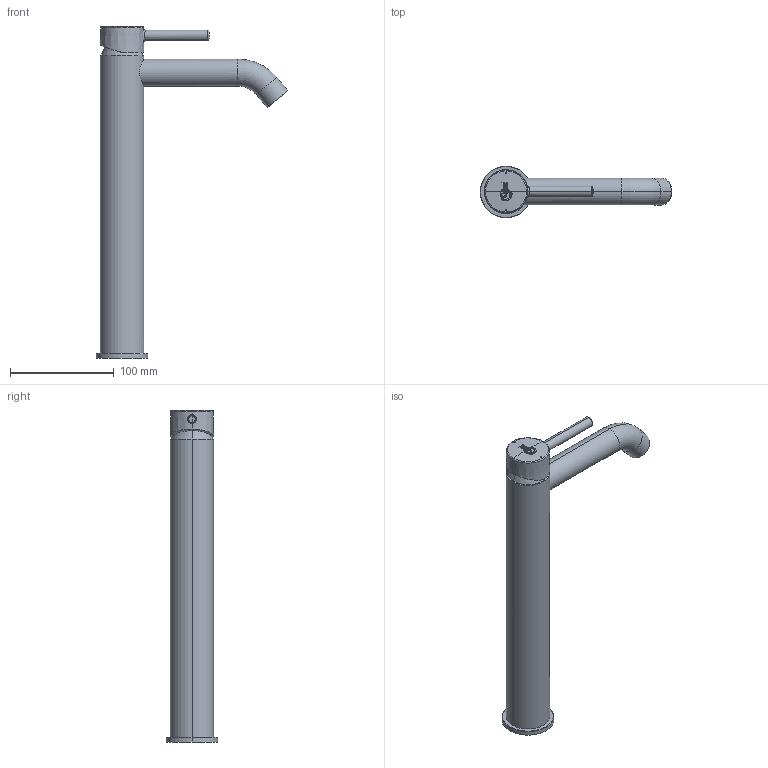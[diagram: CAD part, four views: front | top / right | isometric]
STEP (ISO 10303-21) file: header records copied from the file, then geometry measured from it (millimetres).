
FILE_DESCRIPTION((''),'2;1');
FILE_NAME('BC269AA_3DPL_','2018-02-02T',('Niki'),(''),'CREO PARAMETRIC BY PTC INC, 2016130','CREO PARAMETRIC BY PTC INC, 2016130','');
FILE_SCHEMA(('CONFIG_CONTROL_DESIGN'));
Length unit declared in the file: millimetre
Products named in the file (1): BC269AA_3DPL_
Bounding box: 184.96 x 50 x 320.5 mm (x, y, z)
Volume: 523008.5 mm3; surface area: 61593 mm2
Topology: 1 solids, 2 shells, 1117 faces, 2693 edges, 1603 vertices
Faces by surface type: plane 653, cylinder 334, torus 46, sphere 34, extrusion 27, cone 17, bspline 6
Entity records: 39139 total; most frequent: CARTESIAN_POINT 14217, ORIENTED_EDGE 5374, DIRECTION 4758, EDGE_CURVE 2687, VECTOR 1654, LINE 1627, VERTEX_POINT 1603, AXIS2_PLACEMENT_3D 1552
